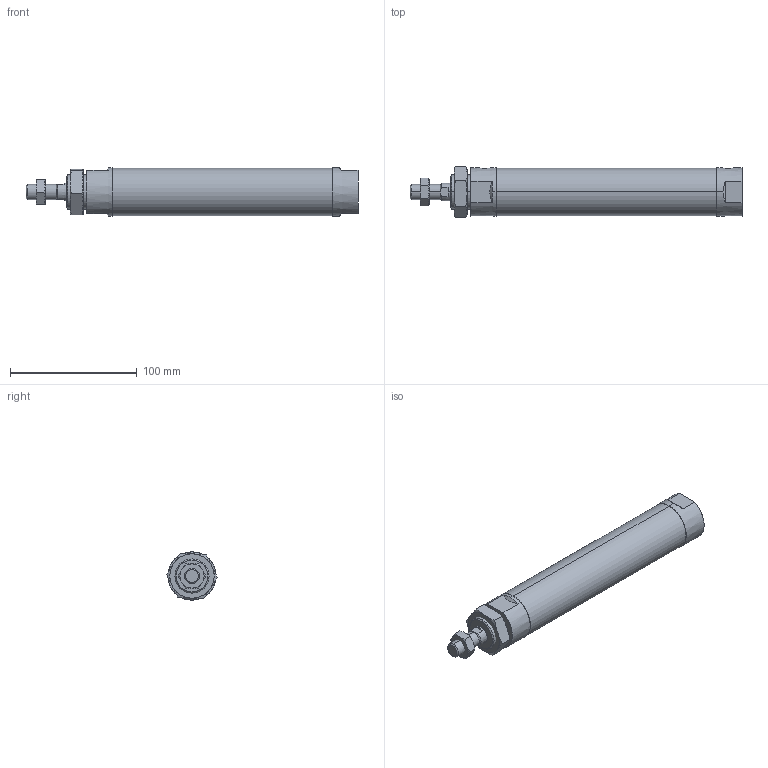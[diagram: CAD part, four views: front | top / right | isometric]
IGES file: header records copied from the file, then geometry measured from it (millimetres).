
Start section: SolidWorks IGES file using analytic representation for surfaces
Global section: file name: C:\Users\Toshiba\Desktop\JGND2-32-125-N.IGS; native system: SolidWorks 2014; preprocessor: SolidWorks 2014; author: Toshiba; date: 160804.105336; units: millimetre
Bounding box: 262 x 40.33 x 38 mm (x, y, z)
Surface area: 35481.5 mm2 (no closed solid volume)
Topology: 0 solids, 0 shells, 89 faces, 1572 edges, 1568 vertices
Faces by surface type: bspline 56, revolution 33
